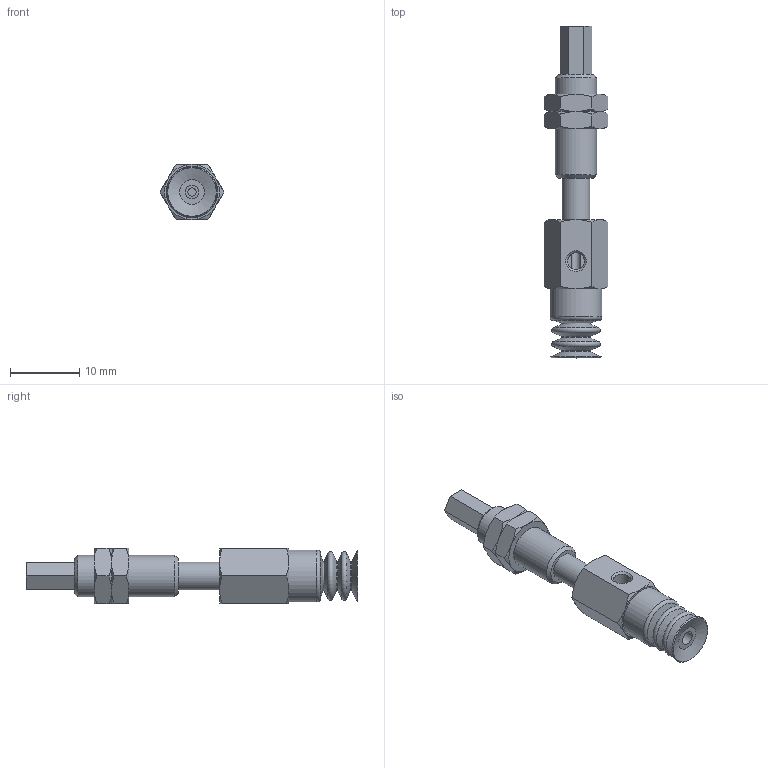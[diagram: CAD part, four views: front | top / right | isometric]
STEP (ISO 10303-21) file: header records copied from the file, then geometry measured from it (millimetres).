
FILE_DESCRIPTION(('STEP AP203'),'1');
FILE_NAME('.stp','2025-04-03T06:15:50',(' '),(' '),'Spatial InterOp 3D',' ',' ');
FILE_SCHEMA(('CONFIG_CONTROL_DESIGN'));
Length unit declared in the file: millimetre
Products named in the file (6): BNABPCYS-7-6-※; Connector_s-7-6; Nut napc_s-7-6; NAPCTS-7-6-FBODY; NAPCTS-7-6-MBODY; BPCG-7-※
Assembly tree (6 placements, depth 2):
  BNABPCYS-7-6-※
    Connector_s-7-6
    Nut napc_s-7-6  x2
    NAPCTS-7-6-FBODY
    NAPCTS-7-6-MBODY
    BPCG-7-※
Bounding box: 9.24 x 48 x 8 mm (x, y, z)
Volume: 1562.2 mm3; surface area: 2399.2 mm2
Topology: 6 solids, 6 shells, 139 faces, 289 edges, 169 vertices
Faces by surface type: plane 57, cone 56, cylinder 15, torus 11
Full cylindrical faces by diameter (mm): 1.2 x1, 2 x1, 2.459 x2, 3 x1, 4 x4, 5.188 x2, 6 x3, 7.5 x1
Entity records: 3330 total; most frequent: CARTESIAN_POINT 777, DIRECTION 476, ORIENTED_EDGE 394, AXIS2_PLACEMENT_3D 210, EDGE_CURVE 197, EDGE_LOOP 174, FACE_OUTER_BOUND 141, VERTEX_POINT 139
